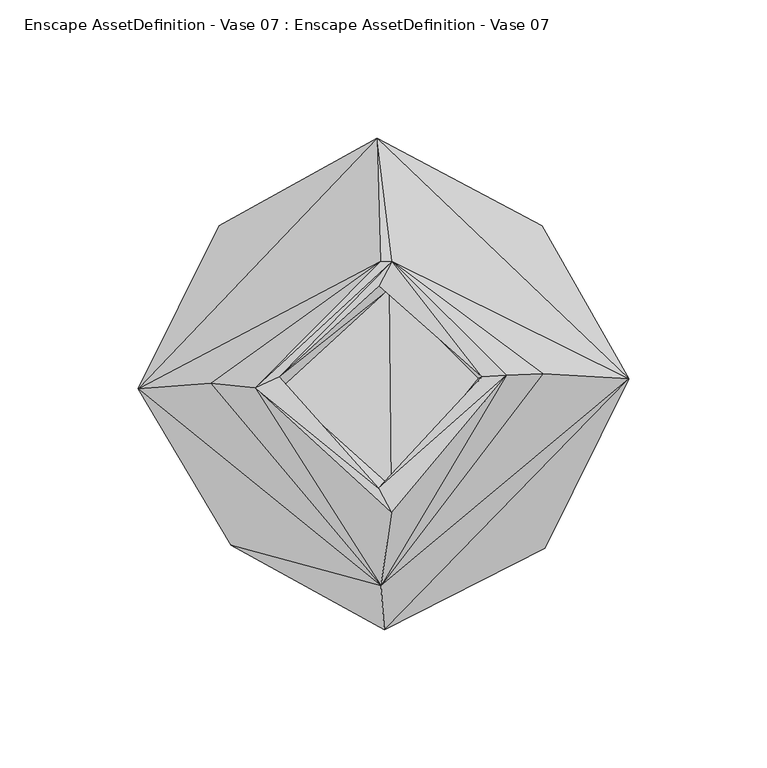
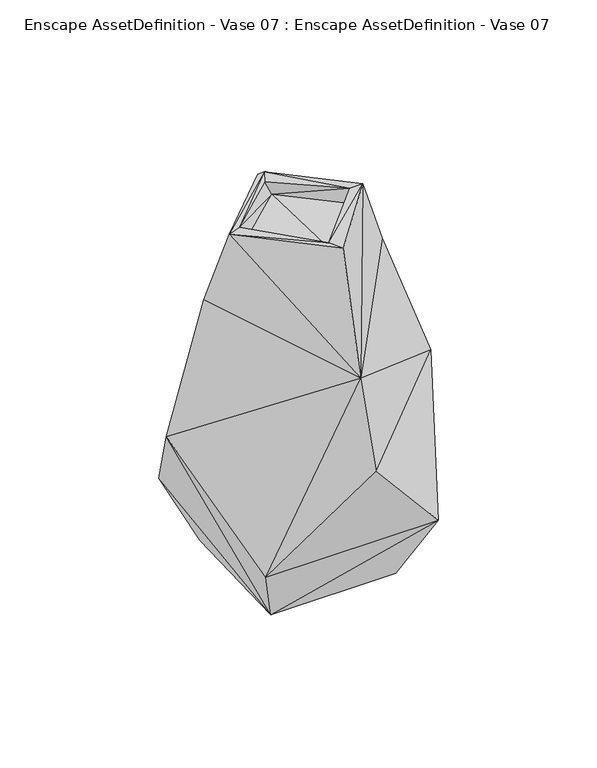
"""IFC4 building model written with IfcOpenShell, lengths in millimetres: geographic element geometry, Enscape AssetDefinition - Vase 07 : Enscape AssetDefinition - Vase 07."""

from ifc_helpers import new_model, si_unit, origin, place, context, project, spatial, faceted_brep, source, transform, mapped, element, save


def enscape_assetdefinition_vase_07_enscape_assetdefinition_vase_3c7b1416(model_context):
    return source(origin(), model_context, "Body", "Brep", [
        faceted_brep([(88.490136, 1.7304876, 113.4430692), (58.1642054, -59.3357794, 41.4970666), (57.1132563, 57.1132563, 39.0177779), (0.2292986, -88.7898952, 114.2038256), (-55.2036278, -58.3720095, 40.8629142), (42.9086871, 46.5308875, 0.8909205), (-43.1917273, -43.1917273, 1.0652828), (41.4946787, -39.9528854, -1.4617783), (-0.9577992, -73.0327889, 170.1252013), (-88.7421221, -1.9036558, 116.6102663), (-59.5471673, 57.0069626, 41.7251736), (-40.2299538, 43.3911718, -0.1779452), (-2.5342267, 88.5856822, 114.9179935), (-1.2766675, 44.2426763, 241.974473), (-62.703602, 0.2173559, 202.2162527), (2.988047, 44.2235731, 242.0270294), (-46.62643, -1.5298512, 243.4087843), (2.734863, -46.6443412, 243.7790036), (-37.8366522, 2.4159946, 242.8486794), (-1.8475254, -37.8175415, 243.7622845), (44.2247652, 2.9868525, 244.1134006), (35.4134925, 2.444657, 244.4442213), (-37.1989161, -1.660026, 233.4115952), (2.6046883, -37.2825116, 234.3873233), (57.4691445, 3.6532516, 200.9837627), (-1.8188631, 35.4325958, 242.0712113), (1.9406779, 34.1583192, 232.7058017), (34.1583192, 1.9406779, 234.9426448)], [[[0, 1, 2]], [[1, 0, 3]], [[1, 3, 4]], [[5, 2, 1]], [[6, 1, 4]], [[7, 5, 1]], [[6, 7, 1]], [[4, 3, 8]], [[8, 3, 0]], [[8, 9, 4]], [[6, 4, 9]], [[6, 9, 10]], [[7, 6, 11]], [[6, 10, 11]], [[5, 7, 11]], [[11, 2, 5]], [[12, 2, 11]], [[11, 10, 12]], [[9, 12, 10]], [[13, 12, 9]], [[13, 9, 14]], [[9, 8, 14]], [[0, 12, 15]], [[0, 2, 12]], [[15, 12, 13]], [[14, 16, 13]], [[15, 13, 16]], [[16, 14, 8]], [[8, 17, 16]], [[15, 16, 18]], [[18, 16, 19]], [[19, 16, 17]], [[17, 8, 20]], [[20, 19, 17]], [[20, 21, 19]], [[22, 18, 19]], [[23, 19, 21]], [[23, 22, 19]], [[21, 20, 15]], [[8, 24, 20]], [[15, 20, 24]], [[0, 24, 8]], [[15, 24, 0]], [[25, 15, 18]], [[21, 15, 25]], [[26, 21, 25]], [[26, 25, 18]], [[21, 27, 23]], [[21, 26, 27]], [[23, 26, 22]], [[26, 23, 27]], [[26, 18, 22]]]),
    ])


if __name__ == "__main__":
    model = new_model("IFC4")
    model_context = context("Model", 3, world=origin())
    ifc_project = project(units=[si_unit("LENGTHUNIT", "METRE", prefix="MILLI")], contexts=[model_context])
    site = spatial("IfcSite", under=ifc_project)
    building = spatial("IfcBuilding", under=site)
    placement = place(None, origin())
    enscape_assetdefinition_vase_07_enscape_assetdefinition_vase_shape = enscape_assetdefinition_vase_07_enscape_assetdefinition_vase_3c7b1416(model_context)
    element("IfcGeographicElement", 1, ObjectType="Enscape AssetDefinition - Vase 07 : Enscape AssetDefinition - Vase 07", at=placement, inside=building, context=model_context, shape_type="MappedRepresentation", body=[
        mapped(enscape_assetdefinition_vase_07_enscape_assetdefinition_vase_shape, transform((0.0, 0.0, 0.0), x_axis=(1.0, 0.0, 0.0), y_axis=(0.0, 1.0, 0.0), z_axis=(0.0, 0.0, 1.0))),
    ])
    save(model, "model.ifc")
